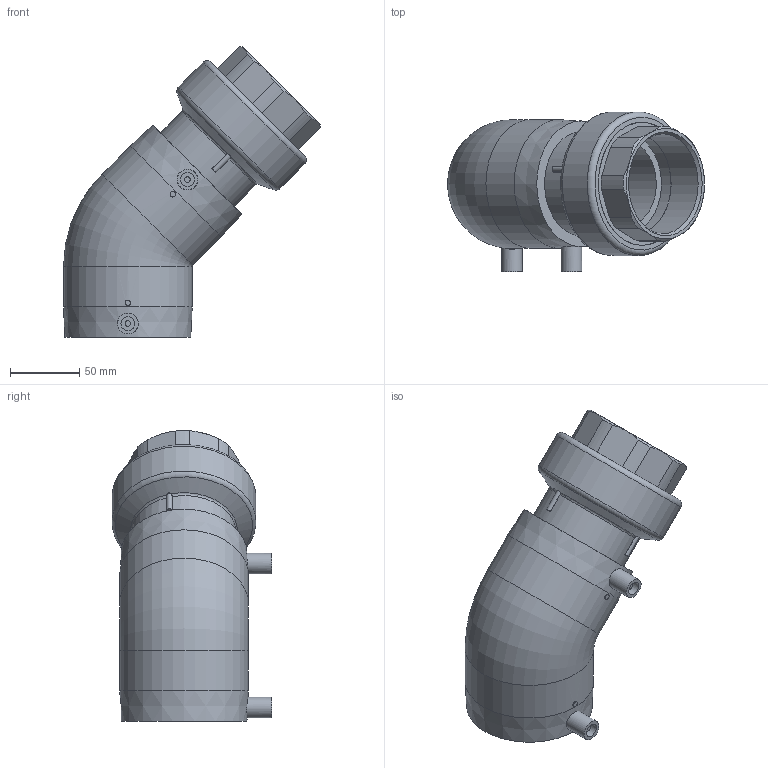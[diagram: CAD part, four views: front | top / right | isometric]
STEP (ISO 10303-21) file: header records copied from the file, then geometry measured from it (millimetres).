
FILE_DESCRIPTION(/* description */ ('Unknown'),/* implementation_level */ '2;1');
FILE_NAME(/* name */ 'GE4TFP075C',/* time_stamp */ '2021-03-02T15:50:54+01:00',/* author */ ('Unknown'),/* organization */ ('Unknown'),/* preprocessor_version */ 'ST-DEVELOPER v16.7',/* originating_system */ 'Solid Edge',/* authorisation */ 'Unknown');
FILE_SCHEMA (('AUTOMOTIVE_DESIGN {1 0 10303 214 3 1 1}'));
Length unit declared in the file: millimetre
Products named in the file (5): GE4TFP075C; GE4P075C; RTOFP075C; Parte PE 075; IOF075C
Assembly tree (4 placements, depth 3):
  GE4TFP075C
    GE4P075C
    RTOFP075C
      Parte PE 075
      IOF075C
Bounding box: 185.8 x 115.39 x 210.3 mm (x, y, z)
Volume: 660786.2 mm3; surface area: 188859 mm2
Topology: 3 solids, 3 shells, 201 faces, 471 edges, 302 vertices
Faces by surface type: plane 107, cylinder 53, bspline 15, cone 13, torus 13
Full cylindrical faces by diameter (mm): 4 x4, 10 x2, 15 x2, 61.4 x1, 67 x2, 72 x2, 72.226 x1, 75 x3, 83 x4, 83.4 x2, 89 x8, 93 x2, 104 x1
Entity records: 6458 total; most frequent: CARTESIAN_POINT 1413, DIRECTION 942, ORIENTED_EDGE 836, EDGE_CURVE 418, AXIS2_PLACEMENT_3D 389, VERTEX_POINT 291, EDGE_LOOP 275, FACE_BOUND 275
